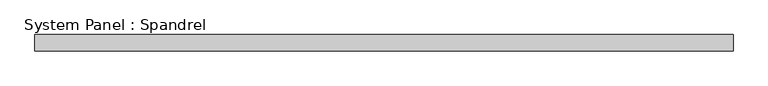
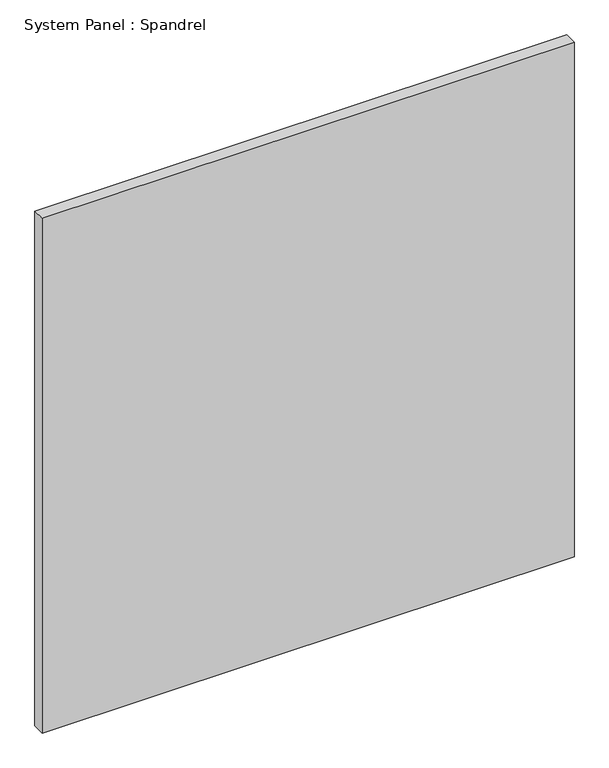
"""IFC4 building model written with IfcOpenShell, lengths in millimetres: plate geometry, System Panel : Spandrel."""

import ifcopenshell
import ifcopenshell.guid

model = None  # the IFC model being written
_history = None  # IfcOwnerHistory: only IFC2X3 demands one
_inside = {}  # id of a spatial element -> (the spatial element, [elements in it])
_under = {}  # id of a project, library or spatial element -> (it, [spatial elements below it])
_declared = {}  # id of a project -> (the project, [libraries it declares])
_typed = {}  # id of a type object -> (the type object, [elements of that type])
_made_of = {}  # id of a material, layer set ... -> (it, [elements and type objects made of it])


def new_model(schema):
    """Start an empty IFC model of exactly this schema.

    Asked for "IFC4X3", IfcOpenShell would pick the latest addendum, in which some entities
    have other attributes; the version numbers below select the first issue.
    IFC2X3 requires an IfcOwnerHistory on every rooted entity: one is made here for all.
    """
    global model, _history
    if schema == "IFC4X3":
        model = ifcopenshell.file(schema_version=(4, 3, 0, 0))
    else:
        model = ifcopenshell.file(schema=schema)
    _inside.clear()
    _under.clear()
    _declared.clear()
    _typed.clear()
    _made_of.clear()
    _history = None
    if model.schema == "IFC2X3":
        org = make("IfcOrganization", Name="unknown")
        user = make(
            "IfcPersonAndOrganization",
            ThePerson=make("IfcPerson", FamilyName="unknown"),
            TheOrganization=org,
        )
        app = make(
            "IfcApplication",
            ApplicationDeveloper=org,
            Version="unknown",
            ApplicationFullName="unknown",
            ApplicationIdentifier="unknown",
        )
        _history = make(
            "IfcOwnerHistory",
            OwningUser=user,
            OwningApplication=app,
            ChangeAction="ADDED",
            CreationDate=0,
        )
    return model


def make(cls, **values):
    """One entity of the class cls with the attributes given. An attribute that is None is left unset."""
    return model.create_entity(
        cls, **{name: value for name, value in values.items() if value is not None}
    )


def rooted(cls, **values):
    """An entity with a GlobalId (a new one), such as an element, a storey or a relation."""
    return make(cls, GlobalId=ifcopenshell.guid.new(), OwnerHistory=_history, **values)


def si_unit(unit_type, name, prefix=None):
    """IfcSIUnit, for example si_unit("LENGTHUNIT", "METRE", prefix="MILLI")."""
    return make("IfcSIUnit", UnitType=unit_type, Prefix=prefix, Name=name)


def assignment(units):
    """IfcUnitAssignment: the units of a project."""
    return None if units is None else make("IfcUnitAssignment", Units=units)


def point(xyz):
    """IfcCartesianPoint."""
    return None if xyz is None else make("IfcCartesianPoint", Coordinates=xyz)


def direction(xyz):
    """IfcDirection."""
    return None if xyz is None else make("IfcDirection", DirectionRatios=xyz)


def frame(location, z_axis=None, x_axis=None):
    """IfcAxis2Placement3D, a coordinate frame: its origin and axes. An axis left out is left unset."""
    return make(
        "IfcAxis2Placement3D",
        Location=point(location),
        Axis=direction(z_axis),
        RefDirection=direction(x_axis),
    )


def origin():
    """The frame at (0, 0, 0) with its axes left unset."""
    return frame((0.0, 0.0, 0.0))


def origin_with_axes():
    """The frame at (0, 0, 0) with the z axis (0, 0, 1) and the x axis (1, 0, 0) written out."""
    return frame((0.0, 0.0, 0.0), z_axis=(0.0, 0.0, 1.0), x_axis=(1.0, 0.0, 0.0))


def place(relative_to, where):
    """IfcLocalPlacement: puts the frame where relative to a parent placement (None: the world)."""
    return make(
        "IfcLocalPlacement", PlacementRelTo=relative_to, RelativePlacement=where
    )


def context(
    kind, dimensions, precision=None, world=None, true_north=None, identifier=None
):
    """IfcGeometricRepresentationContext, for example the 3D "Model" context."""
    return make(
        "IfcGeometricRepresentationContext",
        ContextIdentifier=identifier,
        ContextType=kind,
        CoordinateSpaceDimension=dimensions,
        Precision=precision,
        WorldCoordinateSystem=world,
        TrueNorth=true_north,
    )


def project(units=None, contexts=None):
    """IfcProject with its units and contexts."""
    return rooted(
        "IfcProject",
        Name="project",
        RepresentationContexts=contexts,
        UnitsInContext=assignment(units),
    )


def spatial(cls, under=None, at=None, **own):
    """A site, building, storey or space (cls), placed at a placement, below another one or the project."""
    s = rooted(cls, ObjectPlacement=at, **own)
    if under is not None:
        _under.setdefault(under.id(), (under, []))[1].append(s)
    return s


def polyline(points):
    """IfcPolyline through the points."""
    return make("IfcPolyline", Points=[point(p) for p in points])


def outline(outer, holes=None, kind="AREA"):
    """IfcArbitraryClosedProfileDef: a profile drawn as a closed curve; with holes, ...WithVoids."""
    if holes is None:
        return make("IfcArbitraryClosedProfileDef", ProfileType=kind, OuterCurve=outer)
    return make(
        "IfcArbitraryProfileDefWithVoids",
        ProfileType=kind,
        OuterCurve=outer,
        InnerCurves=holes,
    )


def extrude(swept, where, along, depth):
    """IfcExtrudedAreaSolid: the profile swept, set in the frame where, extruded along a direction by depth."""
    return make(
        "IfcExtrudedAreaSolid",
        SweptArea=swept,
        Position=where,
        ExtrudedDirection=direction(along),
        Depth=depth,
    )


def shape(context_of_items, identifier, shape_type, items):
    """IfcShapeRepresentation: the items that make up one representation, for example the "Body"."""
    return make(
        "IfcShapeRepresentation",
        ContextOfItems=context_of_items,
        RepresentationIdentifier=identifier,
        RepresentationType=shape_type,
        Items=items,
    )


def source(mapping_origin, context_of_items, identifier, shape_type, items):
    """IfcRepresentationMap: a shape defined once, which mapped items show again and again."""
    return make(
        "IfcRepresentationMap",
        MappingOrigin=mapping_origin,
        MappedRepresentation=shape(context_of_items, identifier, shape_type, items),
    )


def transform(
    local_origin,
    x_axis=None,
    y_axis=None,
    z_axis=None,
    scale=None,
    scale2=None,
    scale3=None,
    uniform=True,
):
    """IfcCartesianTransformationOperator3D, or its non-uniform kind. x_axis, y_axis, z_axis: its Axis1, 2, 3."""
    if uniform:
        return make(
            "IfcCartesianTransformationOperator3D",
            Axis1=direction(x_axis),
            Axis2=direction(y_axis),
            LocalOrigin=point(local_origin),
            Scale=scale,
            Axis3=direction(z_axis),
        )
    return make(
        "IfcCartesianTransformationOperator3DnonUniform",
        Axis1=direction(x_axis),
        Axis2=direction(y_axis),
        LocalOrigin=point(local_origin),
        Scale=scale,
        Axis3=direction(z_axis),
        Scale2=scale2,
        Scale3=scale3,
    )


def mapped(mapping_source, mapping_target):
    """IfcMappedItem: shows the shape of a source again, moved by a transform."""
    return make(
        "IfcMappedItem", MappingSource=mapping_source, MappingTarget=mapping_target
    )


def made_of(thing, what):
    """Note that an element or type object is made of a material, layer set ...; save() writes the relation."""
    if what is not None:
        _made_of.setdefault(what.id(), (what, []))[1].append(thing)
    return thing


def element(
    cls,
    number,
    at=None,
    inside=None,
    cuts=None,
    type_object=None,
    material=None,
    context=None,
    identifier="Body",
    shape_type=None,
    held_by="IfcProductDefinitionShape",
    body=None,
    shapes=None,
    **own,
):
    """One element of the class cls, such as IfcWall. Its Tag is "e" and its number.

    at: its placement. inside: the storey or other place that contains it. cuts: it is an
    opening in that element (IfcRelVoidsElement). A single representation is given by context,
    identifier, shape_type and body (its items); several are given by shapes. held_by: the class
    of the entity that holds the representations. save() writes the other relations.
    """
    e = rooted(cls, Tag="e%d" % number, ObjectPlacement=at, **own)
    if body is not None:
        shapes = [shape(context, identifier, shape_type, body)]
    if shapes is not None:
        e.Representation = make(held_by, Representations=shapes)
    if inside is not None:
        _inside.setdefault(inside.id(), (inside, []))[1].append(e)
    if cuts is not None:
        rooted(
            "IfcRelVoidsElement", RelatingBuildingElement=cuts, RelatedOpeningElement=e
        )
    if type_object is not None:
        _typed.setdefault(type_object.id(), (type_object, []))[1].append(e)
    return made_of(e, material)


def aggregate(whole, parts):
    """IfcRelAggregates: a whole, such as a stair, and the parts it consists of."""
    return rooted("IfcRelAggregates", RelatingObject=whole, RelatedObjects=parts)


def save(model, path):
    """Write the relations noted so far, then the file.

    IfcRelAggregates (storeys below a building ...), IfcRelContainedInSpatialStructure (elements
    in a storey), IfcRelDefinesByType, IfcRelAssociatesMaterial and IfcRelDeclares: one each for
    every whole, place, type object, material and project.
    """
    for whole, parts in _under.values():
        aggregate(whole, parts)
    for where, things in _inside.values():
        rooted(
            "IfcRelContainedInSpatialStructure",
            RelatedElements=things,
            RelatingStructure=where,
        )
    for kind, things in _typed.values():
        rooted("IfcRelDefinesByType", RelatedObjects=things, RelatingType=kind)
    for what, things in _made_of.values():
        rooted("IfcRelAssociatesMaterial", RelatedObjects=things, RelatingMaterial=what)
    for by, libraries in _declared.values():
        rooted("IfcRelDeclares", RelatingContext=by, RelatedDefinitions=libraries)
    model.write(path)


def system_panel_spandrel_0a957f49(model_context):
    return source(origin(), model_context, "Body", "SweptSolid", [
        extrude(outline(polyline([(537.5, -25.0), (-537.5, -25.0), (-537.5, 0.0), (537.5, 0.0), (537.5, -25.0)])), origin_with_axes(), (0.0, 0.0, 1.0), 1100.0),
    ])


if __name__ == "__main__":
    model = new_model("IFC4")
    model_context = context("Model", 3, world=origin())
    ifc_project = project(units=[si_unit("LENGTHUNIT", "METRE", prefix="MILLI")], contexts=[model_context])
    site = spatial("IfcSite", under=ifc_project)
    building = spatial("IfcBuilding", under=site)
    placement = place(None, origin())
    system_panel_spandrel_shape = system_panel_spandrel_0a957f49(model_context)
    element("IfcPlate", 1, ObjectType="System Panel : Spandrel", at=placement, inside=building, context=model_context, shape_type="MappedRepresentation", body=[
        mapped(system_panel_spandrel_shape, transform((0.0, 0.0, 0.0), x_axis=(1.0, 0.0, 0.0), y_axis=(0.0, 1.0, 0.0), z_axis=(0.0, 0.0, 1.0))),
    ])
    save(model, "model.ifc")
